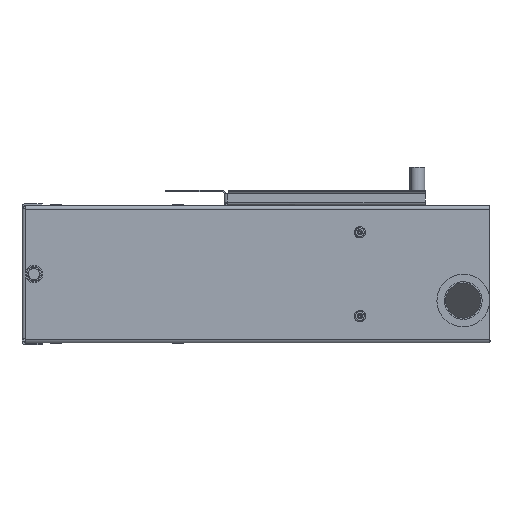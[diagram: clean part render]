
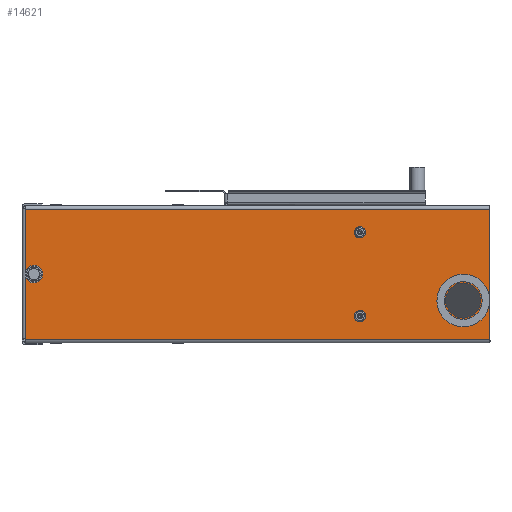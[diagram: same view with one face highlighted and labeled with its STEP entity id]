
A CAD part, left-side view. The second image highlights one B-rep face of the part: STEP entity #14621.
In plain terms, the highlighted planar face has unit normal (0, 0, 1) by its records, which use the part's own axes.
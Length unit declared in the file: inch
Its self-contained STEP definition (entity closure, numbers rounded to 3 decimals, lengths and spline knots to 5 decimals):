
#457 = FACE_BOUND ( 'NONE', #3937, .T. ) ;
#557 = AXIS2_PLACEMENT_3D ( 'NONE', #11636, #13652, #11067 ) ;
#625 = FACE_BOUND ( 'NONE', #9963, .T. ) ;
#895 = VERTEX_POINT ( 'NONE', #12267 ) ;
#1022 = CARTESIAN_POINT ( 'NONE',  ( -1.92597, 9.14453, 0. ) ) ;
#1233 = CIRCLE ( 'NONE', #12472, 0.0655 ) ;
#1415 = EDGE_CURVE ( 'NONE', #1688, #4379, #12400, .T. ) ;
#1688 = VERTEX_POINT ( 'NONE', #6620 ) ;
#1810 = CIRCLE ( 'NONE', #13106, 0.0655 ) ;
#2041 = EDGE_CURVE ( 'NONE', #12942, #1688, #2413, .T. ) ;
#2298 = DIRECTION ( 'NONE',  ( 0., -1., 0. ) ) ;
#2336 = CIRCLE ( 'NONE', #557, 0.0625 ) ;
#2361 = ORIENTED_EDGE ( 'NONE', *, *, #14336, .F. ) ;
#2392 = DIRECTION ( 'NONE',  ( 0., 0., 1. ) ) ;
#2413 = LINE ( 'NONE', #13325, #7055 ) ;
#2452 = VERTEX_POINT ( 'NONE', #11100 ) ;
#2887 = VECTOR ( 'NONE', #8644, 39.37008 ) ;
#3081 = AXIS2_PLACEMENT_3D ( 'NONE', #7990, #7961, #7943 ) ;
#3306 = ORIENTED_EDGE ( 'NONE', *, *, #5100, .F. ) ;
#3345 = CIRCLE ( 'NONE', #6615, 0.4375 ) ;
#3474 = DIRECTION ( 'NONE',  ( 0., 1., 0. ) ) ;
#3535 = CIRCLE ( 'NONE', #3081, 0.0655 ) ;
#3785 = FACE_OUTER_BOUND ( 'NONE', #4688, .T. ) ;
#3937 = EDGE_LOOP ( 'NONE', ( #2361, #14813 ) ) ;
#4256 = EDGE_CURVE ( 'NONE', #4379, #12705, #11752, .T. ) ;
#4379 = VERTEX_POINT ( 'NONE', #11770 ) ;
#4542 = AXIS2_PLACEMENT_3D ( 'NONE', #7318, #7315, #7303 ) ;
#4688 = EDGE_LOOP ( 'NONE', ( #8330, #7502, #6520, #8054 ) ) ;
#4697 = EDGE_CURVE ( 'NONE', #12705, #12942, #7393, .T. ) ;
#5100 = EDGE_CURVE ( 'NONE', #895, #15064, #3345, .T. ) ;
#5210 = VERTEX_POINT ( 'NONE', #13383 ) ;
#5233 = EDGE_CURVE ( 'NONE', #13942, #2452, #2336, .T. ) ;
#5358 = CIRCLE ( 'NONE', #12086, 0.0655 ) ;
#5526 = CARTESIAN_POINT ( 'NONE',  ( -0.29923, 9.41009, 0. ) ) ;
#5792 = EDGE_CURVE ( 'NONE', #15064, #895, #6998, .T. ) ;
#5866 = FACE_BOUND ( 'NONE', #8887, .T. ) ;
#6026 = CARTESIAN_POINT ( 'NONE',  ( -2.95752, 1.16703, 0. ) ) ;
#6124 = ORIENTED_EDGE ( 'NONE', *, *, #5233, .F. ) ;
#6126 = CARTESIAN_POINT ( 'NONE',  ( -0.87418, 1.10153, 0. ) ) ;
#6520 = ORIENTED_EDGE ( 'NONE', *, *, #4697, .F. ) ;
#6529 = EDGE_CURVE ( 'NONE', #11852, #5210, #1810, .T. ) ;
#6615 = AXIS2_PLACEMENT_3D ( 'NONE', #9356, #9328, #9323 ) ;
#6620 = CARTESIAN_POINT ( 'NONE',  ( -3.53263, 9.41009, 0. ) ) ;
#6628 = CARTESIAN_POINT ( 'NONE',  ( -1.25968, -1.90876, 0. ) ) ;
#6998 = CIRCLE ( 'NONE', #4542, 0.4375 ) ;
#7055 = VECTOR ( 'NONE', #13305, 39.37008 ) ;
#7259 = ORIENTED_EDGE ( 'NONE', *, *, #11762, .F. ) ;
#7303 = DIRECTION ( 'NONE',  ( 0., 1., 0. ) ) ;
#7315 = DIRECTION ( 'NONE',  ( 0., 0., 1. ) ) ;
#7318 = CARTESIAN_POINT ( 'NONE',  ( -1.25968, -1.47126, 0. ) ) ;
#7393 = LINE ( 'NONE', #13288, #8152 ) ;
#7405 = VERTEX_POINT ( 'NONE', #6026 ) ;
#7502 = ORIENTED_EDGE ( 'NONE', *, *, #2041, .F. ) ;
#7943 = DIRECTION ( 'NONE',  ( 0., 1., 0. ) ) ;
#7961 = DIRECTION ( 'NONE',  ( 0., 0., 1. ) ) ;
#7990 = CARTESIAN_POINT ( 'NONE',  ( -2.95752, 1.10153, 0. ) ) ;
#8054 = ORIENTED_EDGE ( 'NONE', *, *, #4256, .F. ) ;
#8102 = CIRCLE ( 'NONE', #11198, 0.0625 ) ;
#8152 = VECTOR ( 'NONE', #13182, 39.37008 ) ;
#8330 = ORIENTED_EDGE ( 'NONE', *, *, #1415, .F. ) ;
#8644 = DIRECTION ( 'NONE',  ( 1., 0., 0. ) ) ;
#8887 = EDGE_LOOP ( 'NONE', ( #3306, #15030 ) ) ;
#9323 = DIRECTION ( 'NONE',  ( 0., 1., 0. ) ) ;
#9328 = DIRECTION ( 'NONE',  ( 0., 0., 1. ) ) ;
#9356 = CARTESIAN_POINT ( 'NONE',  ( -1.25968, -1.47126, 0. ) ) ;
#9675 = DIRECTION ( 'NONE',  ( 0., 1., 0. ) ) ;
#9716 = DIRECTION ( 'NONE',  ( 0., 1., 0. ) ) ;
#9764 = DIRECTION ( 'NONE',  ( 0., 0., -1. ) ) ;
#9959 = CARTESIAN_POINT ( 'NONE',  ( -6.49308, 9.41009, 0. ) ) ;
#9963 = EDGE_LOOP ( 'NONE', ( #11940, #6124 ) ) ;
#10012 = DIRECTION ( 'NONE',  ( 0., 0., 1. ) ) ;
#10155 = CARTESIAN_POINT ( 'NONE',  ( 2.66122, 9.41009, 0. ) ) ;
#10265 = PLANE ( 'NONE',  #11854 ) ;
#10563 = DIRECTION ( 'NONE',  ( 0., 1., 0. ) ) ;
#10573 = VERTEX_POINT ( 'NONE', #12094 ) ;
#10584 = DIRECTION ( 'NONE',  ( 0., 0., 1. ) ) ;
#10594 = CARTESIAN_POINT ( 'NONE',  ( -3.53263, -2.13581, 0. ) ) ;
#10617 = CARTESIAN_POINT ( 'NONE',  ( -1.92597, 9.20703, 0. ) ) ;
#10669 = EDGE_CURVE ( 'NONE', #2452, #13942, #8102, .T. ) ;
#10699 = FACE_BOUND ( 'NONE', #10976, .T. ) ;
#10808 = CARTESIAN_POINT ( 'NONE',  ( -0.87418, 1.10153, 0. ) ) ;
#10863 = EDGE_CURVE ( 'NONE', #10573, #7405, #3535, .T. ) ;
#10976 = EDGE_LOOP ( 'NONE', ( #7259, #13200 ) ) ;
#11067 = DIRECTION ( 'NONE',  ( 0., 1., 0. ) ) ;
#11100 = CARTESIAN_POINT ( 'NONE',  ( -1.92597, 9.26953, 0. ) ) ;
#11198 = AXIS2_PLACEMENT_3D ( 'NONE', #10617, #10584, #10563 ) ;
#11601 = CARTESIAN_POINT ( 'NONE',  ( -0.87418, 1.03603, 0. ) ) ;
#11636 = CARTESIAN_POINT ( 'NONE',  ( -1.92597, 9.20703, 0. ) ) ;
#11752 = LINE ( 'NONE', #5526, #12300 ) ;
#11762 = EDGE_CURVE ( 'NONE', #7405, #10573, #1233, .T. ) ;
#11770 = CARTESIAN_POINT ( 'NONE',  ( -0.29923, 9.41009, 0. ) ) ;
#11852 = VERTEX_POINT ( 'NONE', #11601 ) ;
#11854 = AXIS2_PLACEMENT_3D ( 'NONE', #9959, #9764, #9716 ) ;
#11940 = ORIENTED_EDGE ( 'NONE', *, *, #10669, .F. ) ;
#12066 = DIRECTION ( 'NONE',  ( 0., 1., 0. ) ) ;
#12086 = AXIS2_PLACEMENT_3D ( 'NONE', #10808, #10012, #9675 ) ;
#12094 = CARTESIAN_POINT ( 'NONE',  ( -2.95752, 1.03603, 0. ) ) ;
#12111 = DIRECTION ( 'NONE',  ( 0., 0., 1. ) ) ;
#12160 = CARTESIAN_POINT ( 'NONE',  ( -2.95752, 1.10153, 0. ) ) ;
#12267 = CARTESIAN_POINT ( 'NONE',  ( -1.25968, -1.03376, 0. ) ) ;
#12300 = VECTOR ( 'NONE', #2298, 39.37008 ) ;
#12400 = LINE ( 'NONE', #10155, #2887 ) ;
#12472 = AXIS2_PLACEMENT_3D ( 'NONE', #12160, #12111, #12066 ) ;
#12705 = VERTEX_POINT ( 'NONE', #13616 ) ;
#12942 = VERTEX_POINT ( 'NONE', #10594 ) ;
#13106 = AXIS2_PLACEMENT_3D ( 'NONE', #6126, #2392, #3474 ) ;
#13182 = DIRECTION ( 'NONE',  ( -1., 0., 0. ) ) ;
#13200 = ORIENTED_EDGE ( 'NONE', *, *, #10863, .F. ) ;
#13288 = CARTESIAN_POINT ( 'NONE',  ( 2.66122, -2.13581, 0. ) ) ;
#13305 = DIRECTION ( 'NONE',  ( 0., 1., 0. ) ) ;
#13325 = CARTESIAN_POINT ( 'NONE',  ( -3.53263, 9.41009, 0. ) ) ;
#13383 = CARTESIAN_POINT ( 'NONE',  ( -0.87418, 1.16703, 0. ) ) ;
#13616 = CARTESIAN_POINT ( 'NONE',  ( -0.29923, -2.13581, 0. ) ) ;
#13652 = DIRECTION ( 'NONE',  ( 0., 0., 1. ) ) ;
#13942 = VERTEX_POINT ( 'NONE', #1022 ) ;
#14336 = EDGE_CURVE ( 'NONE', #5210, #11852, #5358, .T. ) ;
#14621 = ADVANCED_FACE ( 'NONE', ( #3785, #5866, #10699, #457, #625 ), #10265, .F. ) ;
#14813 = ORIENTED_EDGE ( 'NONE', *, *, #6529, .F. ) ;
#15030 = ORIENTED_EDGE ( 'NONE', *, *, #5792, .F. ) ;
#15064 = VERTEX_POINT ( 'NONE', #6628 ) ;
